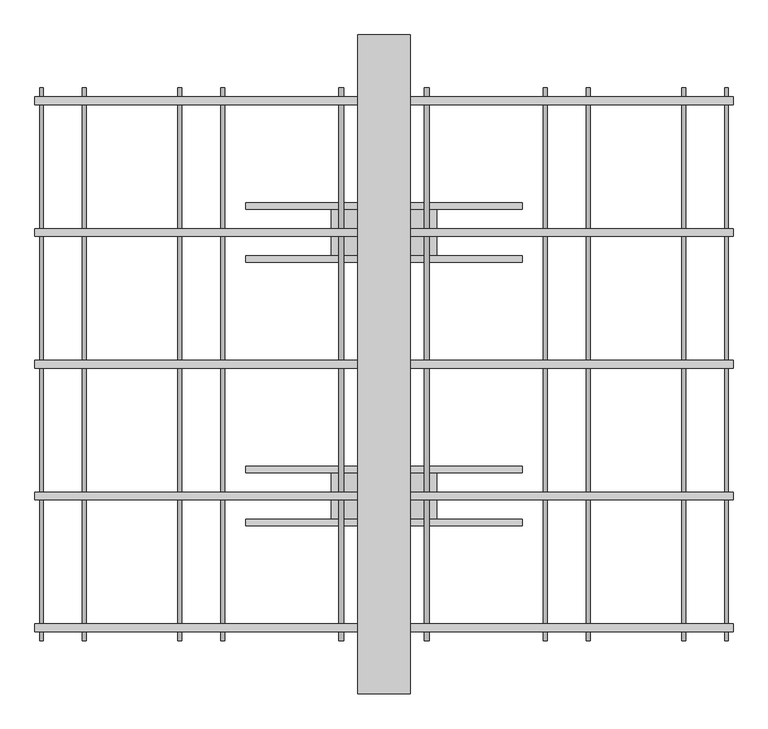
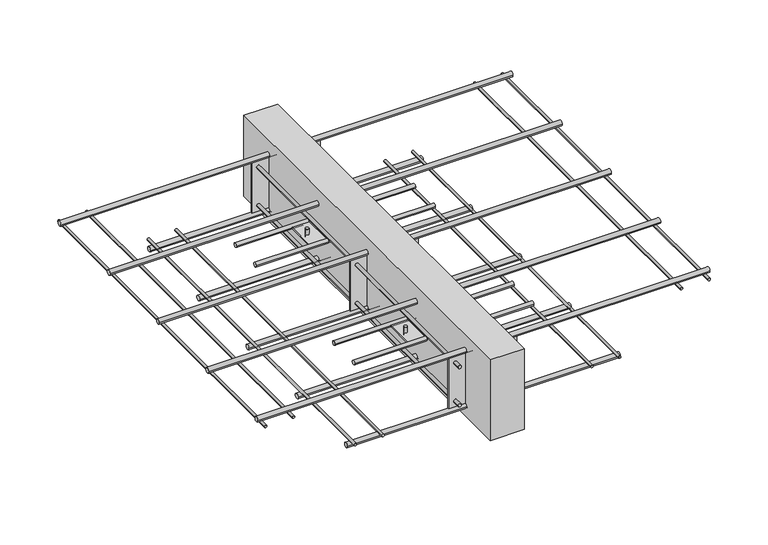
"""IFC4 building model written with IfcOpenShell, lengths in millimetres: proxy geometry, ACINOXplus_Typenreihe_K : KD+ S2."""

from ifc_helpers import new_model, si_unit, point, frame, frame_2d, origin, place, context, project, spatial, polyline, circle_curve, trimmed, segment, composite_curve, outline, extrude, source, transform, mapped, element, save
from ifc_brep_helpers import plane_surface, cylinder_surface, advanced_brep


def generic_models_77f242cc(model_context):
    return source(origin(), model_context, "Body", "SolidModel", [
        extrude(outline(composite_curve([segment(trimmed(circle_curve(frame_2d((-240.0, -104.5)), 5.0), [point((-245.0, -104.5))], [point((-235.0, -104.5))], False, "CARTESIAN"), True, "CONTINUOUS"), segment(trimmed(circle_curve(frame_2d((-240.0, -104.5)), 5.0), [point((-235.0, -104.5))], [point((-245.0, -104.5))], False, "CARTESIAN"), True, "CONTINUOUS")], self_intersect=False)), frame((-210.0, 0.0, 0.0), z_axis=(1.0, 0.0, 0.0), x_axis=(0.0, 1.0, 0.0)), (0.0, 0.0, 1.0), 420.0),
        extrude(outline(composite_curve([segment(trimmed(circle_curve(frame_2d((-160.0, -104.5)), 5.0), [point((-165.0, -104.5))], [point((-155.0, -104.5))], False, "CARTESIAN"), True, "CONTINUOUS"), segment(trimmed(circle_curve(frame_2d((-160.0, -104.5)), 5.0), [point((-155.0, -104.5))], [point((-165.0, -104.5))], False, "CARTESIAN"), True, "CONTINUOUS")], self_intersect=False)), frame((-210.0, 0.0, 0.0), z_axis=(1.0, 0.0, 0.0), x_axis=(0.0, 1.0, 0.0)), (0.0, 0.0, 1.0), 420.0),
        advanced_brep(
        [(-69.0, -200.0, -89.5), (-61.0, -200.0, -89.5), (61.0, -200.0, -89.5), (69.0, -200.0, -89.5), (-69.0, -200.0, -119.5), (-61.0, -200.0, -119.5), (61.0, -200.0, -119.5), (69.0, -200.0, -119.5), (-69.0, -200.0, -103.0), (-61.0, -200.0, -103.0), (-61.0, -200.0, -106.0), (-69.0, -200.0, -106.0), (61.0, -200.0, -103.0), (69.0, -200.0, -103.0), (69.0, -200.0, -106.0), (61.0, -200.0, -106.0), (80.0, -165.0, -103.0), (-80.0, -165.0, -103.0), (-80.0, -235.0, -103.0), (80.0, -235.0, -103.0), (80.0, -165.0, -106.0), (80.0, -235.0, -106.0), (-80.0, -235.0, -106.0), (-80.0, -165.0, -106.0)],
        [
            (0, 1, circle_curve(frame((-65.0, -200.0, -89.5), z_axis=(0.0, 0.0, 1.0), x_axis=(1.0, 0.0, 0.0)), 4.0)),
            (1, 0, circle_curve(frame((-65.0, -200.0, -89.5), z_axis=(0.0, 0.0, 1.0), x_axis=(1.0, 0.0, 0.0)), 4.0)),
            (2, 3, circle_curve(frame((65.0, -200.0, -89.5), z_axis=(0.0, 0.0, 1.0), x_axis=(1.0, 0.0, 0.0)), 4.0)),
            (3, 2, circle_curve(frame((65.0, -200.0, -89.5), z_axis=(0.0, 0.0, 1.0), x_axis=(1.0, 0.0, 0.0)), 4.0)),
            (4, 5, circle_curve(frame((-65.0, -200.0, -119.5), z_axis=(0.0, 0.0, -1.0), x_axis=(1.0, 0.0, 0.0)), 4.0)),
            (5, 4, circle_curve(frame((-65.0, -200.0, -119.5), z_axis=(0.0, 0.0, -1.0), x_axis=(1.0, 0.0, 0.0)), 4.0)),
            (6, 7, circle_curve(frame((65.0, -200.0, -119.5), z_axis=(0.0, 0.0, -1.0), x_axis=(1.0, 0.0, 0.0)), 4.0)),
            (7, 6, circle_curve(frame((65.0, -200.0, -119.5), z_axis=(0.0, 0.0, -1.0), x_axis=(1.0, 0.0, 0.0)), 4.0)),
            (0, 8),
            (8, 9, circle_curve(frame((-65.0, -200.0, -103.0), z_axis=(0.0, 0.0, 1.0), x_axis=(1.0, 0.0, 0.0)), 4.0)),
            (9, 1),
            (5, 10),
            (10, 11, circle_curve(frame((-65.0, -200.0, -106.0), z_axis=(0.0, 0.0, -1.0), x_axis=(1.0, 0.0, 0.0)), 4.0)),
            (11, 4),
            (9, 8, circle_curve(frame((-65.0, -200.0, -103.0), z_axis=(0.0, 0.0, 1.0), x_axis=(1.0, 0.0, 0.0)), 4.0)),
            (11, 10, circle_curve(frame((-65.0, -200.0, -106.0), z_axis=(0.0, 0.0, -1.0), x_axis=(1.0, 0.0, 0.0)), 4.0)),
            (2, 12),
            (12, 13, circle_curve(frame((65.0, -200.0, -103.0), z_axis=(0.0, 0.0, 1.0), x_axis=(1.0, 0.0, 0.0)), 4.0)),
            (13, 3),
            (7, 14),
            (14, 15, circle_curve(frame((65.0, -200.0, -106.0), z_axis=(0.0, 0.0, -1.0), x_axis=(1.0, 0.0, 0.0)), 4.0)),
            (15, 6),
            (13, 12, circle_curve(frame((65.0, -200.0, -103.0), z_axis=(0.0, 0.0, 1.0), x_axis=(1.0, 0.0, 0.0)), 4.0)),
            (15, 14, circle_curve(frame((65.0, -200.0, -106.0), z_axis=(0.0, 0.0, -1.0), x_axis=(1.0, 0.0, 0.0)), 4.0)),
            (16, 17),
            (17, 18),
            (18, 19),
            (19, 16),
            (20, 21),
            (21, 22),
            (22, 23),
            (23, 20),
            (16, 20),
            (23, 17),
            (22, 18),
            (21, 19),
        ],
        [
            plane_surface(frame((-61.0, -200.0, -89.5), z_axis=(0.0, 0.0, 1.0), x_axis=(0.0, 1.0, 0.0))),
            plane_surface(frame((-61.0, -200.0, -119.5), z_axis=(0.0, 0.0, -1.0), x_axis=(0.0, -1.0, 0.0))),
            cylinder_surface(frame((-65.0, -200.0, -119.5), z_axis=(0.0, 0.0, 1.0), x_axis=(1.0, 0.0, 0.0)), 4.0),
            cylinder_surface(frame((65.0, -200.0, -104.5), z_axis=(0.0, 0.0, 1.0), x_axis=(1.0, 0.0, 0.0)), 4.0),
            plane_surface(frame((-80.0, -165.0, -103.0), z_axis=(0.0, 0.0, 1.0), x_axis=(-1.0, 0.0, 0.0))),
            plane_surface(frame((-80.0, -165.0, -106.0), z_axis=(0.0, 0.0, -1.0), x_axis=(1.0, 0.0, 0.0))),
            plane_surface(frame((80.0, -165.0, -103.0), z_axis=(0.0, 1.0, 0.0), x_axis=(0.0, 0.0, -1.0))),
            plane_surface(frame((-80.0, -165.0, -103.0), z_axis=(-1.0, 0.0, 0.0), x_axis=(0.0, 0.0, -1.0))),
            plane_surface(frame((-80.0, -235.0, -103.0), z_axis=(0.0, -1.0, 0.0), x_axis=(0.0, 0.0, -1.0))),
            plane_surface(frame((80.0, -235.0, -103.0), z_axis=(1.0, 0.0, 0.0), x_axis=(0.0, 0.0, -1.0))),
        ],
        [
            (0, [[1, 2]]),
            (0, [[3, 4]]),
            (1, [[5, 6]]),
            (1, [[7, 8]]),
            (2, [[-1, 9, 10, 11]]),
            (2, [[-6, 12, 13, 14]]),
            (2, [[-2, -11, 15, -9]]),
            (2, [[-5, -14, 16, -12]]),
            (3, [[-3, 17, 18, 19]]),
            (3, [[-8, 20, 21, 22]]),
            (3, [[-4, -19, 23, -17]]),
            (3, [[-7, -22, 24, -20]]),
            (4, [[25, 26, 27, 28], [-10, -15], [-18, -23]]),
            (5, [[29, 30, 31, 32], [-13, -16], [-21, -24]]),
            (6, [[-25, 33, -32, 34]]),
            (7, [[-26, -34, -31, 35]]),
            (8, [[-27, -35, -30, 36]]),
            (9, [[-28, -36, -29, -33]]),
        ],
    ),
        extrude(outline(composite_curve([segment(trimmed(circle_curve(frame_2d((160.0, -104.5)), 5.0), [point((155.0, -104.5))], [point((165.0, -104.5))], False, "CARTESIAN"), True, "CONTINUOUS"), segment(trimmed(circle_curve(frame_2d((160.0, -104.5)), 5.0), [point((165.0, -104.5))], [point((155.0, -104.5))], False, "CARTESIAN"), True, "CONTINUOUS")], self_intersect=False)), frame((-210.0, 0.0, 0.0), z_axis=(1.0, 0.0, 0.0), x_axis=(0.0, 1.0, 0.0)), (0.0, 0.0, 1.0), 420.0),
        extrude(outline(composite_curve([segment(trimmed(circle_curve(frame_2d((240.0, -104.5)), 5.0), [point((235.0, -104.5))], [point((245.0, -104.5))], False, "CARTESIAN"), True, "CONTINUOUS"), segment(trimmed(circle_curve(frame_2d((240.0, -104.5)), 5.0), [point((245.0, -104.5))], [point((235.0, -104.5))], False, "CARTESIAN"), True, "CONTINUOUS")], self_intersect=False)), frame((-210.0, 0.0, 0.0), z_axis=(1.0, 0.0, 0.0), x_axis=(0.0, 1.0, 0.0)), (0.0, 0.0, 1.0), 420.0),
        advanced_brep(
        [(-69.0, 200.0, -89.5), (-61.0, 200.0, -89.5), (61.0, 200.0, -89.5), (69.0, 200.0, -89.5), (-69.0, 200.0, -119.5), (-61.0, 200.0, -119.5), (61.0, 200.0, -119.5), (69.0, 200.0, -119.5), (-69.0, 200.0, -103.0), (-61.0, 200.0, -103.0), (-61.0, 200.0, -106.0), (-69.0, 200.0, -106.0), (61.0, 200.0, -103.0), (69.0, 200.0, -103.0), (69.0, 200.0, -106.0), (61.0, 200.0, -106.0), (80.0, 235.0, -103.0), (-80.0, 235.0, -103.0), (-80.0, 165.0, -103.0), (80.0, 165.0, -103.0), (80.0, 235.0, -106.0), (80.0, 165.0, -106.0), (-80.0, 165.0, -106.0), (-80.0, 235.0, -106.0)],
        [
            (0, 1, circle_curve(frame((-65.0, 200.0, -89.5), z_axis=(0.0, 0.0, 1.0), x_axis=(1.0, 0.0, 0.0)), 4.0)),
            (1, 0, circle_curve(frame((-65.0, 200.0, -89.5), z_axis=(0.0, 0.0, 1.0), x_axis=(1.0, 0.0, 0.0)), 4.0)),
            (2, 3, circle_curve(frame((65.0, 200.0, -89.5), z_axis=(0.0, 0.0, 1.0), x_axis=(1.0, 0.0, 0.0)), 4.0)),
            (3, 2, circle_curve(frame((65.0, 200.0, -89.5), z_axis=(0.0, 0.0, 1.0), x_axis=(1.0, 0.0, 0.0)), 4.0)),
            (4, 5, circle_curve(frame((-65.0, 200.0, -119.5), z_axis=(0.0, 0.0, -1.0), x_axis=(1.0, 0.0, 0.0)), 4.0)),
            (5, 4, circle_curve(frame((-65.0, 200.0, -119.5), z_axis=(0.0, 0.0, -1.0), x_axis=(1.0, 0.0, 0.0)), 4.0)),
            (6, 7, circle_curve(frame((65.0, 200.0, -119.5), z_axis=(0.0, 0.0, -1.0), x_axis=(1.0, 0.0, 0.0)), 4.0)),
            (7, 6, circle_curve(frame((65.0, 200.0, -119.5), z_axis=(0.0, 0.0, -1.0), x_axis=(1.0, 0.0, 0.0)), 4.0)),
            (0, 8),
            (8, 9, circle_curve(frame((-65.0, 200.0, -103.0), z_axis=(0.0, 0.0, 1.0), x_axis=(1.0, 0.0, 0.0)), 4.0)),
            (9, 1),
            (5, 10),
            (10, 11, circle_curve(frame((-65.0, 200.0, -106.0), z_axis=(0.0, 0.0, -1.0), x_axis=(1.0, 0.0, 0.0)), 4.0)),
            (11, 4),
            (9, 8, circle_curve(frame((-65.0, 200.0, -103.0), z_axis=(0.0, 0.0, 1.0), x_axis=(1.0, 0.0, 0.0)), 4.0)),
            (11, 10, circle_curve(frame((-65.0, 200.0, -106.0), z_axis=(0.0, 0.0, -1.0), x_axis=(1.0, 0.0, 0.0)), 4.0)),
            (2, 12),
            (12, 13, circle_curve(frame((65.0, 200.0, -103.0), z_axis=(0.0, 0.0, 1.0), x_axis=(1.0, 0.0, 0.0)), 4.0)),
            (13, 3),
            (7, 14),
            (14, 15, circle_curve(frame((65.0, 200.0, -106.0), z_axis=(0.0, 0.0, -1.0), x_axis=(1.0, 0.0, 0.0)), 4.0)),
            (15, 6),
            (13, 12, circle_curve(frame((65.0, 200.0, -103.0), z_axis=(0.0, 0.0, 1.0), x_axis=(1.0, 0.0, 0.0)), 4.0)),
            (15, 14, circle_curve(frame((65.0, 200.0, -106.0), z_axis=(0.0, 0.0, -1.0), x_axis=(1.0, 0.0, 0.0)), 4.0)),
            (16, 17),
            (17, 18),
            (18, 19),
            (19, 16),
            (20, 21),
            (21, 22),
            (22, 23),
            (23, 20),
            (16, 20),
            (23, 17),
            (22, 18),
            (21, 19),
        ],
        [
            plane_surface(frame((-61.0, 200.0, -89.5), z_axis=(0.0, 0.0, 1.0), x_axis=(0.0, 1.0, 0.0))),
            plane_surface(frame((-61.0, 200.0, -119.5), z_axis=(0.0, 0.0, -1.0), x_axis=(0.0, -1.0, 0.0))),
            cylinder_surface(frame((-65.0, 200.0, -119.5), z_axis=(0.0, 0.0, 1.0), x_axis=(1.0, 0.0, 0.0)), 4.0),
            cylinder_surface(frame((65.0, 200.0, -104.5), z_axis=(0.0, 0.0, 1.0), x_axis=(1.0, 0.0, 0.0)), 4.0),
            plane_surface(frame((-80.0, 235.0, -103.0), z_axis=(0.0, 0.0, 1.0), x_axis=(-1.0, 0.0, 0.0))),
            plane_surface(frame((-80.0, 235.0, -106.0), z_axis=(0.0, 0.0, -1.0), x_axis=(1.0, 0.0, 0.0))),
            plane_surface(frame((80.0, 235.0, -103.0), z_axis=(0.0, 1.0, 0.0), x_axis=(0.0, 0.0, -1.0))),
            plane_surface(frame((-80.0, 235.0, -103.0), z_axis=(-1.0, 0.0, 0.0), x_axis=(0.0, 0.0, -1.0))),
            plane_surface(frame((-80.0, 165.0, -103.0), z_axis=(0.0, -1.0, 0.0), x_axis=(0.0, 0.0, -1.0))),
            plane_surface(frame((80.0, 165.0, -103.0), z_axis=(1.0, 0.0, 0.0), x_axis=(0.0, 0.0, -1.0))),
        ],
        [
            (0, [[1, 2]]),
            (0, [[3, 4]]),
            (1, [[5, 6]]),
            (1, [[7, 8]]),
            (2, [[-1, 9, 10, 11]]),
            (2, [[-6, 12, 13, 14]]),
            (2, [[-2, -11, 15, -9]]),
            (2, [[-5, -14, 16, -12]]),
            (3, [[-3, 17, 18, 19]]),
            (3, [[-8, 20, 21, 22]]),
            (3, [[-4, -19, 23, -17]]),
            (3, [[-7, -22, 24, -20]]),
            (4, [[25, 26, 27, 28], [-10, -15], [-18, -23]]),
            (5, [[29, 30, 31, 32], [-13, -16], [-21, -24]]),
            (6, [[-25, 33, -32, 34]]),
            (7, [[-26, -34, -31, 35]]),
            (8, [[-27, -35, -30, 36]]),
            (9, [[-28, -36, -29, -33]]),
        ],
    ),
        extrude(outline(polyline([(40.0, 500.0), (40.0, -500.0), (-40.0, -500.0), (-40.0, 500.0), (40.0, 500.0)])), frame((0.0, 0.0, -200.0), z_axis=(0.0, 0.0, 1.0), x_axis=(1.0, 0.0, 0.0)), (0.0, 0.0, 1.0), 200.0),
        extrude(outline(polyline([(80.0, 1.5), (80.0, -1.5), (-80.0, -1.5), (-80.0, 1.5), (80.0, 1.5)])), frame((0.0, 0.0, -167.0), z_axis=(0.0, 0.0, 1.0), x_axis=(1.0, 0.0, 0.0)), (0.0, 0.0, 1.0), 125.0),
        extrude(outline(polyline([(80.0, -398.5), (80.0, -401.5), (-80.0, -401.5), (-80.0, -398.5), (80.0, -398.5)])), frame((0.0, 0.0, -167.0), z_axis=(0.0, 0.0, 1.0), x_axis=(1.0, 0.0, 0.0)), (0.0, 0.0, 1.0), 125.0),
        extrude(outline(polyline([(80.0, 401.5), (80.0, 398.5), (-80.0, 398.5), (-80.0, 401.5), (80.0, 401.5)])), frame((0.0, 0.0, -167.0), z_axis=(0.0, 0.0, 1.0), x_axis=(1.0, 0.0, 0.0)), (0.0, 0.0, 1.0), 125.0),
        extrude(outline(composite_curve([segment(trimmed(circle_curve(frame_2d((-152.0, -65.0)), 4.0), [point((-152.0, -61.0))], [point((-152.0, -69.0))], False, "CARTESIAN"), True, "CONTINUOUS"), segment(trimmed(circle_curve(frame_2d((-152.0, -65.0)), 4.0), [point((-152.0, -69.0))], [point((-152.0, -61.0))], False, "CARTESIAN"), True, "CONTINUOUS")], self_intersect=False)), frame((0.0, -420.0, 0.0), z_axis=(0.0, 1.0, 0.0), x_axis=(0.0, 0.0, 1.0)), (0.0, 0.0, 1.0), 18.5),
        extrude(outline(composite_curve([segment(trimmed(circle_curve(frame_2d((-152.0, -65.0)), 4.0), [point((-152.0, -69.0))], [point((-152.0, -61.0))], False, "CARTESIAN"), True, "CONTINUOUS"), segment(trimmed(circle_curve(frame_2d((-152.0, -65.0)), 4.0), [point((-152.0, -61.0))], [point((-152.0, -69.0))], False, "CARTESIAN"), True, "CONTINUOUS")], self_intersect=False)), frame((0.0, -398.5, 0.0), z_axis=(0.0, 1.0, 0.0), x_axis=(0.0, 0.0, 1.0)), (0.0, 0.0, 1.0), 397.0),
        extrude(outline(composite_curve([segment(trimmed(circle_curve(frame_2d((-152.0, -65.0)), 4.0), [point((-152.0, -69.0))], [point((-152.0, -61.0))], False, "CARTESIAN"), True, "CONTINUOUS"), segment(trimmed(circle_curve(frame_2d((-152.0, -65.0)), 4.0), [point((-152.0, -61.0))], [point((-152.0, -69.0))], False, "CARTESIAN"), True, "CONTINUOUS")], self_intersect=False)), frame((0.0, 401.5, 0.0), z_axis=(0.0, 1.0, 0.0), x_axis=(0.0, 0.0, 1.0)), (0.0, 0.0, 1.0), 18.5),
        extrude(outline(composite_curve([segment(trimmed(circle_curve(frame_2d((-152.0, -65.0)), 4.0), [point((-152.0, -69.0))], [point((-152.0, -61.0))], False, "CARTESIAN"), True, "CONTINUOUS"), segment(trimmed(circle_curve(frame_2d((-152.0, -65.0)), 4.0), [point((-152.0, -61.0))], [point((-152.0, -69.0))], False, "CARTESIAN"), True, "CONTINUOUS")], self_intersect=False)), frame((0.0, 1.5, 0.0), z_axis=(0.0, 1.0, 0.0), x_axis=(0.0, 0.0, 1.0)), (0.0, 0.0, 1.0), 397.0),
        extrude(outline(composite_curve([segment(trimmed(circle_curve(frame_2d((-152.0, 65.0)), 4.0), [point((-152.0, 69.0))], [point((-152.0, 61.0))], False, "CARTESIAN"), True, "CONTINUOUS"), segment(trimmed(circle_curve(frame_2d((-152.0, 65.0)), 4.0), [point((-152.0, 61.0))], [point((-152.0, 69.0))], False, "CARTESIAN"), True, "CONTINUOUS")], self_intersect=False)), frame((0.0, -420.0, 0.0), z_axis=(0.0, 1.0, 0.0), x_axis=(0.0, 0.0, 1.0)), (0.0, 0.0, 1.0), 18.5),
        extrude(outline(composite_curve([segment(trimmed(circle_curve(frame_2d((-152.0, 65.0)), 4.0), [point((-152.0, 61.0))], [point((-152.0, 69.0))], False, "CARTESIAN"), True, "CONTINUOUS"), segment(trimmed(circle_curve(frame_2d((-152.0, 65.0)), 4.0), [point((-152.0, 69.0))], [point((-152.0, 61.0))], False, "CARTESIAN"), True, "CONTINUOUS")], self_intersect=False)), frame((0.0, -398.5, 0.0), z_axis=(0.0, 1.0, 0.0), x_axis=(0.0, 0.0, 1.0)), (0.0, 0.0, 1.0), 397.0),
        extrude(outline(composite_curve([segment(trimmed(circle_curve(frame_2d((-152.0, 65.0)), 4.0), [point((-152.0, 61.0))], [point((-152.0, 69.0))], False, "CARTESIAN"), True, "CONTINUOUS"), segment(trimmed(circle_curve(frame_2d((-152.0, 65.0)), 4.0), [point((-152.0, 69.0))], [point((-152.0, 61.0))], False, "CARTESIAN"), True, "CONTINUOUS")], self_intersect=False)), frame((0.0, 401.5, 0.0), z_axis=(0.0, 1.0, 0.0), x_axis=(0.0, 0.0, 1.0)), (0.0, 0.0, 1.0), 18.5),
        extrude(outline(composite_curve([segment(trimmed(circle_curve(frame_2d((-152.0, 65.0)), 4.0), [point((-152.0, 61.0))], [point((-152.0, 69.0))], False, "CARTESIAN"), True, "CONTINUOUS"), segment(trimmed(circle_curve(frame_2d((-152.0, 65.0)), 4.0), [point((-152.0, 69.0))], [point((-152.0, 61.0))], False, "CARTESIAN"), True, "CONTINUOUS")], self_intersect=False)), frame((0.0, 1.5, 0.0), z_axis=(0.0, 1.0, 0.0), x_axis=(0.0, 0.0, 1.0)), (0.0, 0.0, 1.0), 397.0),
        extrude(outline(composite_curve([segment(trimmed(circle_curve(frame_2d((-57.0, -65.0)), 4.0), [point((-57.0, -61.0))], [point((-57.0, -69.0))], False, "CARTESIAN"), True, "CONTINUOUS"), segment(trimmed(circle_curve(frame_2d((-57.0, -65.0)), 4.0), [point((-57.0, -69.0))], [point((-57.0, -61.0))], False, "CARTESIAN"), True, "CONTINUOUS")], self_intersect=False)), frame((0.0, -420.0, 0.0), z_axis=(0.0, 1.0, 0.0), x_axis=(0.0, 0.0, 1.0)), (0.0, 0.0, 1.0), 18.5),
        extrude(outline(composite_curve([segment(trimmed(circle_curve(frame_2d((-57.0, -65.0)), 4.0), [point((-57.0, -69.0))], [point((-57.0, -61.0))], False, "CARTESIAN"), True, "CONTINUOUS"), segment(trimmed(circle_curve(frame_2d((-57.0, -65.0)), 4.0), [point((-57.0, -61.0))], [point((-57.0, -69.0))], False, "CARTESIAN"), True, "CONTINUOUS")], self_intersect=False)), frame((0.0, -398.5, 0.0), z_axis=(0.0, 1.0, 0.0), x_axis=(0.0, 0.0, 1.0)), (0.0, 0.0, 1.0), 397.0),
        extrude(outline(composite_curve([segment(trimmed(circle_curve(frame_2d((-57.0, -65.0)), 4.0), [point((-57.0, -69.0))], [point((-57.0, -61.0))], False, "CARTESIAN"), True, "CONTINUOUS"), segment(trimmed(circle_curve(frame_2d((-57.0, -65.0)), 4.0), [point((-57.0, -61.0))], [point((-57.0, -69.0))], False, "CARTESIAN"), True, "CONTINUOUS")], self_intersect=False)), frame((0.0, 401.5, 0.0), z_axis=(0.0, 1.0, 0.0), x_axis=(0.0, 0.0, 1.0)), (0.0, 0.0, 1.0), 18.5),
        extrude(outline(composite_curve([segment(trimmed(circle_curve(frame_2d((-57.0, -65.0)), 4.0), [point((-57.0, -69.0))], [point((-57.0, -61.0))], False, "CARTESIAN"), True, "CONTINUOUS"), segment(trimmed(circle_curve(frame_2d((-57.0, -65.0)), 4.0), [point((-57.0, -61.0))], [point((-57.0, -69.0))], False, "CARTESIAN"), True, "CONTINUOUS")], self_intersect=False)), frame((0.0, 1.5, 0.0), z_axis=(0.0, 1.0, 0.0), x_axis=(0.0, 0.0, 1.0)), (0.0, 0.0, 1.0), 397.0),
        extrude(outline(composite_curve([segment(trimmed(circle_curve(frame_2d((-57.0, 65.0)), 4.0), [point((-57.0, 69.0))], [point((-57.0, 61.0))], False, "CARTESIAN"), True, "CONTINUOUS"), segment(trimmed(circle_curve(frame_2d((-57.0, 65.0)), 4.0), [point((-57.0, 61.0))], [point((-57.0, 69.0))], False, "CARTESIAN"), True, "CONTINUOUS")], self_intersect=False)), frame((0.0, -420.0, 0.0), z_axis=(0.0, 1.0, 0.0), x_axis=(0.0, 0.0, 1.0)), (0.0, 0.0, 1.0), 18.5),
        extrude(outline(composite_curve([segment(trimmed(circle_curve(frame_2d((-57.0, 65.0)), 4.0), [point((-57.0, 61.0))], [point((-57.0, 69.0))], False, "CARTESIAN"), True, "CONTINUOUS"), segment(trimmed(circle_curve(frame_2d((-57.0, 65.0)), 4.0), [point((-57.0, 69.0))], [point((-57.0, 61.0))], False, "CARTESIAN"), True, "CONTINUOUS")], self_intersect=False)), frame((0.0, -398.5, 0.0), z_axis=(0.0, 1.0, 0.0), x_axis=(0.0, 0.0, 1.0)), (0.0, 0.0, 1.0), 397.0),
        extrude(outline(composite_curve([segment(trimmed(circle_curve(frame_2d((-57.0, 65.0)), 4.0), [point((-57.0, 61.0))], [point((-57.0, 69.0))], False, "CARTESIAN"), True, "CONTINUOUS"), segment(trimmed(circle_curve(frame_2d((-57.0, 65.0)), 4.0), [point((-57.0, 69.0))], [point((-57.0, 61.0))], False, "CARTESIAN"), True, "CONTINUOUS")], self_intersect=False)), frame((0.0, 401.5, 0.0), z_axis=(0.0, 1.0, 0.0), x_axis=(0.0, 0.0, 1.0)), (0.0, 0.0, 1.0), 18.5),
        extrude(outline(composite_curve([segment(trimmed(circle_curve(frame_2d((-57.0, 65.0)), 4.0), [point((-57.0, 61.0))], [point((-57.0, 69.0))], False, "CARTESIAN"), True, "CONTINUOUS"), segment(trimmed(circle_curve(frame_2d((-57.0, 65.0)), 4.0), [point((-57.0, 69.0))], [point((-57.0, 61.0))], False, "CARTESIAN"), True, "CONTINUOUS")], self_intersect=False)), frame((0.0, 1.5, 0.0), z_axis=(0.0, 1.0, 0.0), x_axis=(0.0, 0.0, 1.0)), (0.0, 0.0, 1.0), 397.0),
        extrude(outline(composite_curve([segment(trimmed(circle_curve(frame_2d((0.0, -173.0)), 6.0), [point((-6.0, -173.0))], [point((6.0, -173.0))], False, "CARTESIAN"), True, "CONTINUOUS"), segment(trimmed(circle_curve(frame_2d((0.0, -173.0)), 6.0), [point((6.0, -173.0))], [point((-6.0, -173.0))], False, "CARTESIAN"), True, "CONTINUOUS")], self_intersect=False)), frame((-320.0, 0.0, 0.0), z_axis=(1.0, 0.0, 0.0), x_axis=(0.0, 1.0, 0.0)), (0.0, 0.0, 1.0), 640.0),
        extrude(outline(composite_curve([segment(trimmed(circle_curve(frame_2d((200.0, -173.0)), 6.0), [point((194.0, -173.0))], [point((206.0, -173.0))], False, "CARTESIAN"), True, "CONTINUOUS"), segment(trimmed(circle_curve(frame_2d((200.0, -173.0)), 6.0), [point((206.0, -173.0))], [point((194.0, -173.0))], False, "CARTESIAN"), True, "CONTINUOUS")], self_intersect=False)), frame((-320.0, 0.0, 0.0), z_axis=(1.0, 0.0, 0.0), x_axis=(0.0, 1.0, 0.0)), (0.0, 0.0, 1.0), 640.0),
        extrude(outline(composite_curve([segment(trimmed(circle_curve(frame_2d((400.0, -173.0)), 6.0), [point((394.0, -173.0))], [point((406.0, -173.0))], False, "CARTESIAN"), True, "CONTINUOUS"), segment(trimmed(circle_curve(frame_2d((400.0, -173.0)), 6.0), [point((406.0, -173.0))], [point((394.0, -173.0))], False, "CARTESIAN"), True, "CONTINUOUS")], self_intersect=False)), frame((-320.0, 0.0, 0.0), z_axis=(1.0, 0.0, 0.0), x_axis=(0.0, 1.0, 0.0)), (0.0, 0.0, 1.0), 640.0),
        extrude(outline(composite_curve([segment(trimmed(circle_curve(frame_2d((-200.0, -173.0)), 6.0), [point((-206.0, -173.0))], [point((-194.0, -173.0))], False, "CARTESIAN"), True, "CONTINUOUS"), segment(trimmed(circle_curve(frame_2d((-200.0, -173.0)), 6.0), [point((-194.0, -173.0))], [point((-206.0, -173.0))], False, "CARTESIAN"), True, "CONTINUOUS")], self_intersect=False)), frame((-320.0, 0.0, 0.0), z_axis=(1.0, 0.0, 0.0), x_axis=(0.0, 1.0, 0.0)), (0.0, 0.0, 1.0), 640.0),
        extrude(outline(composite_curve([segment(trimmed(circle_curve(frame_2d((-400.0, -173.0)), 6.0), [point((-406.0, -173.0))], [point((-394.0, -173.0))], False, "CARTESIAN"), True, "CONTINUOUS"), segment(trimmed(circle_curve(frame_2d((-400.0, -173.0)), 6.0), [point((-394.0, -173.0))], [point((-406.0, -173.0))], False, "CARTESIAN"), True, "CONTINUOUS")], self_intersect=False)), frame((-320.0, 0.0, 0.0), z_axis=(1.0, 0.0, 0.0), x_axis=(0.0, 1.0, 0.0)), (0.0, 0.0, 1.0), 640.0),
        extrude(outline(composite_curve([segment(trimmed(circle_curve(frame_2d((0.0, -36.0)), 6.0), [point((-6.0, -36.0))], [point((6.0, -36.0))], False, "CARTESIAN"), True, "CONTINUOUS"), segment(trimmed(circle_curve(frame_2d((0.0, -36.0)), 6.0), [point((6.0, -36.0))], [point((-6.0, -36.0))], False, "CARTESIAN"), True, "CONTINUOUS")], self_intersect=False)), frame((-530.0, 0.0, 0.0), z_axis=(1.0, 0.0, 0.0), x_axis=(0.0, 1.0, 0.0)), (0.0, 0.0, 1.0), 1060.0),
        extrude(outline(composite_curve([segment(trimmed(circle_curve(frame_2d((200.0, -36.0)), 6.0), [point((194.0, -36.0))], [point((206.0, -36.0))], False, "CARTESIAN"), True, "CONTINUOUS"), segment(trimmed(circle_curve(frame_2d((200.0, -36.0)), 6.0), [point((206.0, -36.0))], [point((194.0, -36.0))], False, "CARTESIAN"), True, "CONTINUOUS")], self_intersect=False)), frame((-530.0, 0.0, 0.0), z_axis=(1.0, 0.0, 0.0), x_axis=(0.0, 1.0, 0.0)), (0.0, 0.0, 1.0), 1060.0),
        extrude(outline(composite_curve([segment(trimmed(circle_curve(frame_2d((400.0, -36.0)), 6.0), [point((394.0, -36.0))], [point((406.0, -36.0))], False, "CARTESIAN"), True, "CONTINUOUS"), segment(trimmed(circle_curve(frame_2d((400.0, -36.0)), 6.0), [point((406.0, -36.0))], [point((394.0, -36.0))], False, "CARTESIAN"), True, "CONTINUOUS")], self_intersect=False)), frame((-530.0, 0.0, 0.0), z_axis=(1.0, 0.0, 0.0), x_axis=(0.0, 1.0, 0.0)), (0.0, 0.0, 1.0), 1060.0),
        extrude(outline(composite_curve([segment(trimmed(circle_curve(frame_2d((-200.0, -36.0)), 6.0), [point((-206.0, -36.0))], [point((-194.0, -36.0))], False, "CARTESIAN"), True, "CONTINUOUS"), segment(trimmed(circle_curve(frame_2d((-200.0, -36.0)), 6.0), [point((-194.0, -36.0))], [point((-206.0, -36.0))], False, "CARTESIAN"), True, "CONTINUOUS")], self_intersect=False)), frame((-530.0, 0.0, 0.0), z_axis=(1.0, 0.0, 0.0), x_axis=(0.0, 1.0, 0.0)), (0.0, 0.0, 1.0), 1060.0),
        extrude(outline(composite_curve([segment(trimmed(circle_curve(frame_2d((-400.0, -36.0)), 6.0), [point((-406.0, -36.0))], [point((-394.0, -36.0))], False, "CARTESIAN"), True, "CONTINUOUS"), segment(trimmed(circle_curve(frame_2d((-400.0, -36.0)), 6.0), [point((-394.0, -36.0))], [point((-406.0, -36.0))], False, "CARTESIAN"), True, "CONTINUOUS")], self_intersect=False)), frame((-530.0, 0.0, 0.0), z_axis=(1.0, 0.0, 0.0), x_axis=(0.0, 1.0, 0.0)), (0.0, 0.0, 1.0), 1060.0),
        extrude(outline(composite_curve([segment(trimmed(circle_curve(frame_2d((-164.0, -310.0)), 3.0), [point((-164.0, -307.0))], [point((-164.0, -313.0))], False, "CARTESIAN"), True, "CONTINUOUS"), segment(trimmed(circle_curve(frame_2d((-164.0, -310.0)), 3.0), [point((-164.0, -313.0))], [point((-164.0, -307.0))], False, "CARTESIAN"), True, "CONTINUOUS")], self_intersect=False)), frame((0.0, -420.0, 0.0), z_axis=(0.0, 1.0, 0.0), x_axis=(0.0, 0.0, 1.0)), (0.0, 0.0, 1.0), 840.0),
        extrude(outline(composite_curve([segment(trimmed(circle_curve(frame_2d((-164.0, -245.0)), 3.0), [point((-164.0, -242.0))], [point((-164.0, -248.0))], False, "CARTESIAN"), True, "CONTINUOUS"), segment(trimmed(circle_curve(frame_2d((-164.0, -245.0)), 3.0), [point((-164.0, -248.0))], [point((-164.0, -242.0))], False, "CARTESIAN"), True, "CONTINUOUS")], self_intersect=False)), frame((0.0, -420.0, 0.0), z_axis=(0.0, 1.0, 0.0), x_axis=(0.0, 0.0, 1.0)), (0.0, 0.0, 1.0), 840.0),
        extrude(outline(composite_curve([segment(trimmed(circle_curve(frame_2d((-164.0, 245.0)), 3.0), [point((-164.0, 248.0))], [point((-164.0, 242.0))], False, "CARTESIAN"), True, "CONTINUOUS"), segment(trimmed(circle_curve(frame_2d((-164.0, 245.0)), 3.0), [point((-164.0, 242.0))], [point((-164.0, 248.0))], False, "CARTESIAN"), True, "CONTINUOUS")], self_intersect=False)), frame((0.0, -420.0, 0.0), z_axis=(0.0, 1.0, 0.0), x_axis=(0.0, 0.0, 1.0)), (0.0, 0.0, 1.0), 840.0),
        extrude(outline(composite_curve([segment(trimmed(circle_curve(frame_2d((-164.0, 310.0)), 3.0), [point((-164.0, 313.0))], [point((-164.0, 307.0))], False, "CARTESIAN"), True, "CONTINUOUS"), segment(trimmed(circle_curve(frame_2d((-164.0, 310.0)), 3.0), [point((-164.0, 307.0))], [point((-164.0, 313.0))], False, "CARTESIAN"), True, "CONTINUOUS")], self_intersect=False)), frame((0.0, -420.0, 0.0), z_axis=(0.0, 1.0, 0.0), x_axis=(0.0, 0.0, 1.0)), (0.0, 0.0, 1.0), 840.0),
        extrude(outline(composite_curve([segment(trimmed(circle_curve(frame_2d((-45.0, 455.0)), 3.0), [point((-45.0, 458.0))], [point((-45.0, 452.0))], False, "CARTESIAN"), True, "CONTINUOUS"), segment(trimmed(circle_curve(frame_2d((-45.0, 455.0)), 3.0), [point((-45.0, 452.0))], [point((-45.0, 458.0))], False, "CARTESIAN"), True, "CONTINUOUS")], self_intersect=False)), frame((0.0, -420.0, 0.0), z_axis=(0.0, 1.0, 0.0), x_axis=(0.0, 0.0, 1.0)), (0.0, 0.0, 1.0), 840.0),
        extrude(outline(composite_curve([segment(trimmed(circle_curve(frame_2d((-45.0, 520.0)), 3.0), [point((-45.0, 523.0))], [point((-45.0, 517.0))], False, "CARTESIAN"), True, "CONTINUOUS"), segment(trimmed(circle_curve(frame_2d((-45.0, 520.0)), 3.0), [point((-45.0, 517.0))], [point((-45.0, 523.0))], False, "CARTESIAN"), True, "CONTINUOUS")], self_intersect=False)), frame((0.0, -420.0, 0.0), z_axis=(0.0, 1.0, 0.0), x_axis=(0.0, 0.0, 1.0)), (0.0, 0.0, 1.0), 840.0),
        extrude(outline(composite_curve([segment(trimmed(circle_curve(frame_2d((-45.0, -520.0)), 3.0), [point((-45.0, -517.0))], [point((-45.0, -523.0))], False, "CARTESIAN"), True, "CONTINUOUS"), segment(trimmed(circle_curve(frame_2d((-45.0, -520.0)), 3.0), [point((-45.0, -523.0))], [point((-45.0, -517.0))], False, "CARTESIAN"), True, "CONTINUOUS")], self_intersect=False)), frame((0.0, -420.0, 0.0), z_axis=(0.0, 1.0, 0.0), x_axis=(0.0, 0.0, 1.0)), (0.0, 0.0, 1.0), 840.0),
        extrude(outline(composite_curve([segment(trimmed(circle_curve(frame_2d((-45.0, -455.0)), 3.0), [point((-45.0, -452.0))], [point((-45.0, -458.0))], False, "CARTESIAN"), True, "CONTINUOUS"), segment(trimmed(circle_curve(frame_2d((-45.0, -455.0)), 3.0), [point((-45.0, -458.0))], [point((-45.0, -452.0))], False, "CARTESIAN"), True, "CONTINUOUS")], self_intersect=False)), frame((0.0, -420.0, 0.0), z_axis=(0.0, 1.0, 0.0), x_axis=(0.0, 0.0, 1.0)), (0.0, 0.0, 1.0), 840.0),
    ])


if __name__ == "__main__":
    model = new_model("IFC4")
    model_context = context("Model", 3, world=origin())
    ifc_project = project(units=[si_unit("LENGTHUNIT", "METRE", prefix="MILLI")], contexts=[model_context])
    site = spatial("IfcSite", under=ifc_project)
    building = spatial("IfcBuilding", under=site)
    placement = place(None, origin())
    generic_models_shape = generic_models_77f242cc(model_context)
    element("IfcBuildingElementProxy", 1, Name="ACINOXplus_Typenreihe_K : KD+ S2", ObjectType="ACINOXplus_Typenreihe_K : KD+ S2", at=placement, inside=building, context=model_context, shape_type="MappedRepresentation", body=[
        mapped(generic_models_shape, transform((0.0, 0.0, 0.0), x_axis=(1.0, 0.0, 0.0), y_axis=(0.0, 1.0, 0.0), z_axis=(0.0, 0.0, 1.0))),
    ])
    save(model, "model.ifc")
